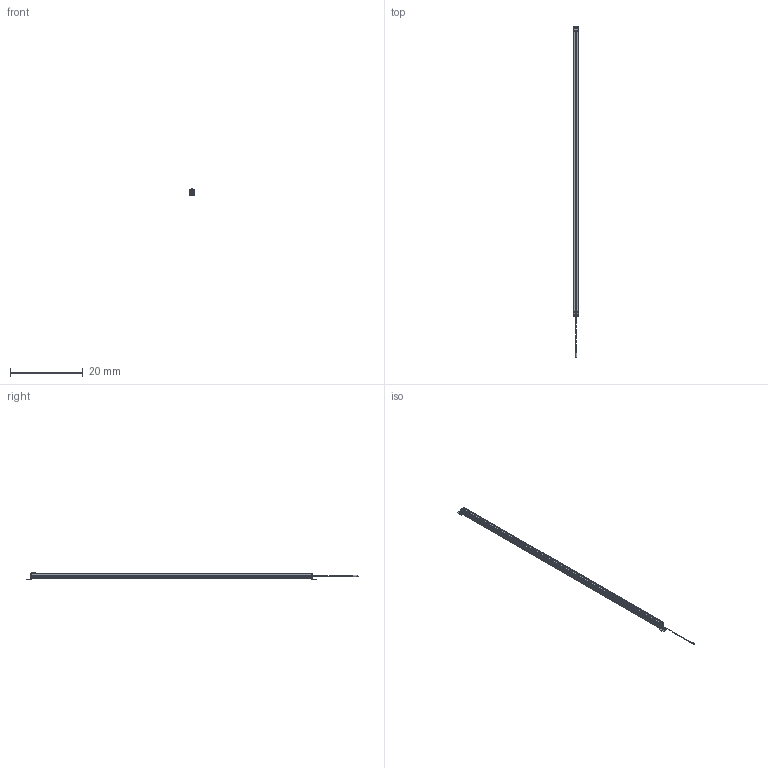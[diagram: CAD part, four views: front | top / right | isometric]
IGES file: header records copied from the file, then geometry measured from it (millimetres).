
Start section:  Autodesk DirectConnect version 7.0.27.0 ---- IGES version 5.3
Global section: file name: C:\ACADFILES\SS_PYLONS\CUSTOMER_FILES\SS-76-PYLON_3D_L.iges; native system: Autodesk DirectConnect 7.0.27.0; preprocessor: 7.0.27.0; author: ENGINEERMAIN; organization: Unknown; date: 20150810.130155; units: millimetre
Bounding box: 1.46 x 91.52 x 2.11 mm (x, y, z)
Surface area: 1138.7 mm2 (no closed solid volume)
Topology: 0 solids, 0 shells, 475 faces, 2604 edges, 2623 vertices
Faces by surface type: bspline 475
